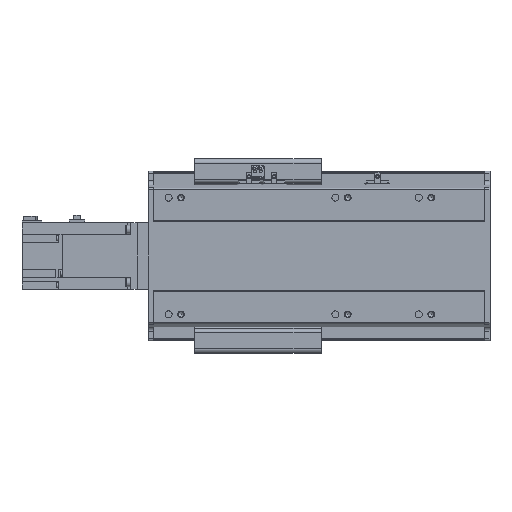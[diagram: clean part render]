
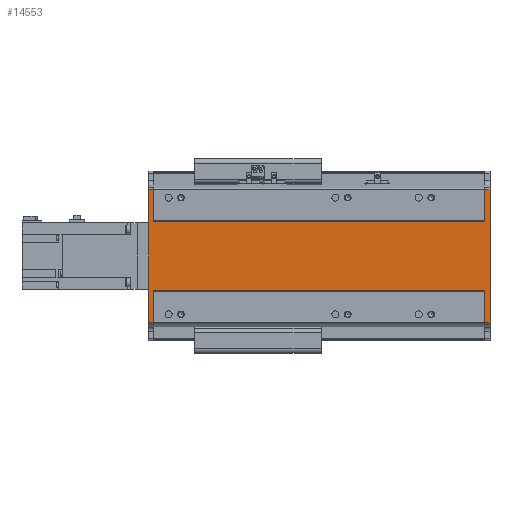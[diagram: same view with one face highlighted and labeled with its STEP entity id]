
A CAD part, front view. The second image highlights one B-rep face of the part: STEP entity #14553.
In plain terms, the highlighted planar face has unit normal (0, -1, 0).
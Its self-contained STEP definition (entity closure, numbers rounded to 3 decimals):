
#3215=ORIENTED_EDGE('',*,*,#6416,.T.);
#3216=ORIENTED_EDGE('',*,*,#6417,.F.);
#3217=ORIENTED_EDGE('',*,*,#6418,.F.);
#3218=ORIENTED_EDGE('',*,*,#6419,.F.);
#3219=ORIENTED_EDGE('',*,*,#6326,.T.);
#3220=ORIENTED_EDGE('',*,*,#6420,.T.);
#3221=ORIENTED_EDGE('',*,*,#6421,.F.);
#3222=ORIENTED_EDGE('',*,*,#6422,.F.);
#3223=ORIENTED_EDGE('',*,*,#6325,.T.);
#3224=ORIENTED_EDGE('',*,*,#6423,.T.);
#3225=ORIENTED_EDGE('',*,*,#6424,.F.);
#3226=ORIENTED_EDGE('',*,*,#6414,.T.);
#6325=EDGE_CURVE('',#8064,#8069,#9437,.T.);
#6326=EDGE_CURVE('',#8070,#8071,#9438,.T.);
#6414=EDGE_CURVE('',#8138,#8137,#9495,.T.);
#6416=EDGE_CURVE('',#8137,#8139,#9496,.T.);
#6417=EDGE_CURVE('',#8140,#8139,#9497,.T.);
#6418=EDGE_CURVE('',#8141,#8140,#9498,.T.);
#6419=EDGE_CURVE('',#8070,#8141,#9499,.T.);
#6420=EDGE_CURVE('',#8071,#8142,#9500,.T.);
#6421=EDGE_CURVE('',#8143,#8142,#9501,.T.);
#6422=EDGE_CURVE('',#8064,#8143,#9502,.T.);
#6423=EDGE_CURVE('',#8069,#8144,#9503,.T.);
#6424=EDGE_CURVE('',#8138,#8144,#9504,.T.);
#8064=VERTEX_POINT('',#23507);
#8069=VERTEX_POINT('',#23517);
#8070=VERTEX_POINT('',#23521);
#8071=VERTEX_POINT('',#23522);
#8137=VERTEX_POINT('',#23694);
#8138=VERTEX_POINT('',#23696);
#8139=VERTEX_POINT('',#23700);
#8140=VERTEX_POINT('',#23702);
#8141=VERTEX_POINT('',#23704);
#8142=VERTEX_POINT('',#23707);
#8143=VERTEX_POINT('',#23709);
#8144=VERTEX_POINT('',#23712);
#9437=LINE('',#23518,#10861);
#9438=LINE('',#23520,#10862);
#9495=LINE('',#23695,#10919);
#9496=LINE('',#23699,#10920);
#9497=LINE('',#23701,#10921);
#9498=LINE('',#23703,#10922);
#9499=LINE('',#23705,#10923);
#9500=LINE('',#23706,#10924);
#9501=LINE('',#23708,#10925);
#9502=LINE('',#23710,#10926);
#9503=LINE('',#23711,#10927);
#9504=LINE('',#23713,#10928);
#10861=VECTOR('',#18785,1000.);
#10862=VECTOR('',#18788,1000.);
#10919=VECTOR('',#18945,1000.);
#10920=VECTOR('',#18950,1000.);
#10921=VECTOR('',#18951,1000.);
#10922=VECTOR('',#18952,1000.);
#10923=VECTOR('',#18953,1000.);
#10924=VECTOR('',#18954,1000.);
#10925=VECTOR('',#18955,1000.);
#10926=VECTOR('',#18956,1000.);
#10927=VECTOR('',#18957,1000.);
#10928=VECTOR('',#18958,1000.);
#11961=EDGE_LOOP('',(#3215,#3216,#3217,#3218,#3219,#3220,#3221,#3222,#3223,
#3224,#3225,#3226));
#13043=FACE_BOUND('',#11961,.T.);
#13872=PLANE('',#15808);
#14553=ADVANCED_FACE('',(#13043),#13872,.F.);
#15808=AXIS2_PLACEMENT_3D('',#23698,#18948,#18949);
#18785=DIRECTION('',(0.,0.,-1.));
#18788=DIRECTION('',(0.,0.,-1.));
#18945=DIRECTION('',(-1.,0.,0.));
#18948=DIRECTION('',(0.,1.,0.));
#18949=DIRECTION('',(0.,0.,1.));
#18950=DIRECTION('',(0.,0.,-1.));
#18951=DIRECTION('',(-1.,0.,0.));
#18952=DIRECTION('',(0.,0.,-1.));
#18953=DIRECTION('',(-1.,0.,0.));
#18954=DIRECTION('',(1.,0.,0.));
#18955=DIRECTION('',(0.,0.,-1.));
#18956=DIRECTION('',(1.,0.,0.));
#18957=DIRECTION('',(-1.,0.,0.));
#18958=DIRECTION('',(0.,0.,-1.));
#23507=CARTESIAN_POINT('',(403.,1.,79.16));
#23517=CARTESIAN_POINT('',(403.,1.,41.793));
#23518=CARTESIAN_POINT('',(403.,1.,79.16));
#23520=CARTESIAN_POINT('',(403.,1.,84.5));
#23521=CARTESIAN_POINT('',(403.,1.,-41.793));
#23522=CARTESIAN_POINT('',(403.,1.,-79.16));
#23694=CARTESIAN_POINT('',(0.,1.,79.16));
#23695=CARTESIAN_POINT('',(6.,1.,79.16));
#23696=CARTESIAN_POINT('',(6.,1.,79.16));
#23698=CARTESIAN_POINT('',(6.,1.,79.16));
#23699=CARTESIAN_POINT('',(0.,1.,79.16));
#23700=CARTESIAN_POINT('',(0.,1.,-79.16));
#23701=CARTESIAN_POINT('',(6.,1.,-79.16));
#23702=CARTESIAN_POINT('',(6.,1.,-79.16));
#23703=CARTESIAN_POINT('',(6.,1.,79.16));
#23704=CARTESIAN_POINT('',(6.,1.,-41.793));
#23705=CARTESIAN_POINT('',(403.,1.,-41.793));
#23706=CARTESIAN_POINT('',(403.,1.,-79.16));
#23707=CARTESIAN_POINT('',(409.,1.,-79.16));
#23708=CARTESIAN_POINT('',(409.,1.,79.16));
#23709=CARTESIAN_POINT('',(409.,1.,79.16));
#23710=CARTESIAN_POINT('',(403.,1.,79.16));
#23711=CARTESIAN_POINT('',(403.,1.,41.793));
#23712=CARTESIAN_POINT('',(6.,1.,41.793));
#23713=CARTESIAN_POINT('',(6.,1.,79.16));
